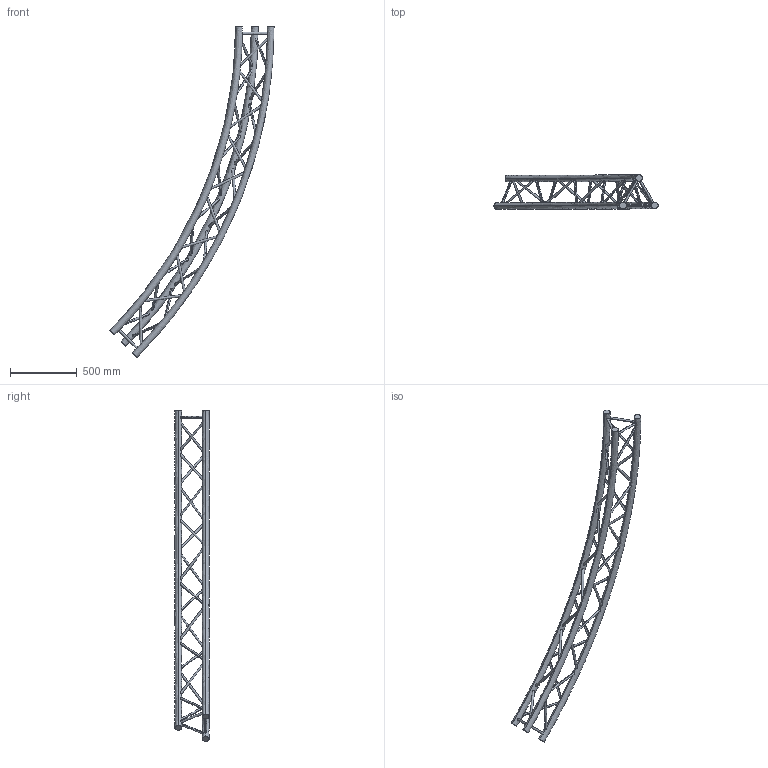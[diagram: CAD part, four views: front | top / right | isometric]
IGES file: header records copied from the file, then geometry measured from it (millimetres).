
Start section: SolidWorks IGES file using analytic representation for surfaces
Global section: file name: K:\BIBLIO\asd_biblio\SX290\Cercles\SXC29700PH\SXC29700PH.IGS; native system: SolidWorks 2009; preprocessor: SolidWorks 2009; author: des3; date: 091021.102018; units: millimetre
Bounding box: 1228.07 x 255.25 x 2474.87 mm (x, y, z)
Surface area: 1702418.1 mm2 (no closed solid volume)
Topology: 0 solids, 0 shells, 84 faces, 6023 edges, 6023 vertices
Faces by surface type: revolution 72, bspline 12
